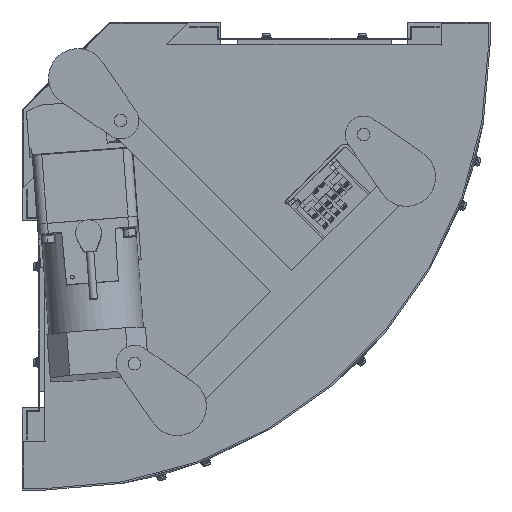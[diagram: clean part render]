
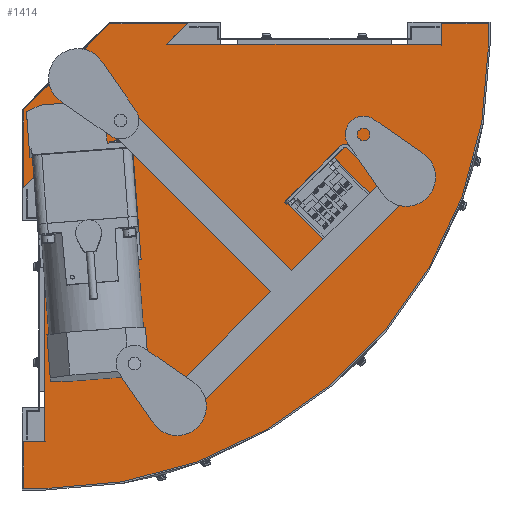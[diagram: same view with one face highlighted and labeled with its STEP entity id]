
A CAD part, front view. The second image highlights one B-rep face of the part: STEP entity #1414.
In plain terms, the highlighted planar face has unit normal (0, -1, 0).
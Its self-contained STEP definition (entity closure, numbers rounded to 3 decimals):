
#1414=ADVANCED_FACE('',(#3601),#3600,.F.);
#3600=PLANE('',#18785);
#3601=FACE_OUTER_BOUND('',#18786,.T.);
#18782=CARTESIAN_POINT('',(-33.4,-145.7,-471.5));
#18783=DIRECTION('',(0.,1.,0.));
#18784=DIRECTION('',(0.,0.,1.));
#18785=AXIS2_PLACEMENT_3D('',#18782,#18783,#18784);
#18786=EDGE_LOOP('',(#28808,#28809,#28810,#28811,#28812,#28813,#28814,#28815,#28816,#28817,#28818,#28819,#28820,#28821,#28822,#28823));
#28808=ORIENTED_EDGE('',*,*,#36398,.F.);
#28809=ORIENTED_EDGE('',*,*,#36502,.F.);
#28810=ORIENTED_EDGE('',*,*,#36489,.T.);
#28811=ORIENTED_EDGE('',*,*,#36504,.T.);
#28812=ORIENTED_EDGE('',*,*,#36505,.T.);
#28813=ORIENTED_EDGE('',*,*,#36506,.T.);
#28814=ORIENTED_EDGE('',*,*,#36493,.T.);
#28815=ORIENTED_EDGE('',*,*,#36500,.F.);
#28816=ORIENTED_EDGE('',*,*,#36498,.F.);
#28817=ORIENTED_EDGE('',*,*,#36507,.T.);
#28818=ORIENTED_EDGE('',*,*,#36508,.T.);
#28819=ORIENTED_EDGE('',*,*,#36509,.T.);
#28820=ORIENTED_EDGE('',*,*,#36510,.T.);
#28821=ORIENTED_EDGE('',*,*,#36511,.T.);
#28822=ORIENTED_EDGE('',*,*,#36512,.T.);
#28823=ORIENTED_EDGE('',*,*,#36513,.T.);
#36398=EDGE_CURVE('',#41002,#40987,#41009,.T.);
#36489=EDGE_CURVE('',#41620,#41613,#41621,.T.);
#36493=EDGE_CURVE('',#41600,#41641,#41648,.T.);
#36498=EDGE_CURVE('',#41675,#41682,#41683,.T.);
#36500=EDGE_CURVE('',#41682,#41641,#41695,.T.);
#36502=EDGE_CURVE('',#41620,#41002,#41707,.T.);
#36504=EDGE_CURVE('',#41613,#41719,#41720,.T.);
#36505=EDGE_CURVE('',#41719,#41726,#41727,.T.);
#36506=EDGE_CURVE('',#41726,#41600,#41733,.T.);
#36507=EDGE_CURVE('',#41675,#41739,#41740,.T.);
#36508=EDGE_CURVE('',#41739,#41746,#41747,.T.);
#36509=EDGE_CURVE('',#41746,#41753,#41754,.T.);
#36510=EDGE_CURVE('',#41753,#41760,#41761,.T.);
#36511=EDGE_CURVE('',#41760,#41767,#41768,.T.);
#36512=EDGE_CURVE('',#41767,#41774,#41775,.T.);
#36513=EDGE_CURVE('',#41774,#40987,#41781,.T.);
#40987=VERTEX_POINT('',#67288);
#41002=VERTEX_POINT('',#67298);
#41009=CIRCLE('',#67305,412.5);
#41600=VERTEX_POINT('',#67668);
#41613=VERTEX_POINT('',#67675);
#41620=VERTEX_POINT('',#67679);
#41621=LINE('',#67680,#67681);
#41641=VERTEX_POINT('',#67691);
#41648=LINE('',#67695,#67696);
#41675=VERTEX_POINT('',#67711);
#41682=VERTEX_POINT('',#67715);
#41683=CIRCLE('',#67719,412.5);
#41695=LINE('',#67723,#67724);
#41707=LINE('',#67729,#67730);
#41719=VERTEX_POINT('',#67735);
#41720=LINE('',#67736,#67737);
#41726=VERTEX_POINT('',#67739);
#41727=LINE('',#67740,#67741);
#41733=LINE('',#67743,#67744);
#41739=VERTEX_POINT('',#67746);
#41740=LINE('',#67747,#67748);
#41746=VERTEX_POINT('',#67750);
#41747=LINE('',#67751,#67752);
#41753=VERTEX_POINT('',#67754);
#41754=LINE('',#67755,#67756);
#41760=VERTEX_POINT('',#67758);
#41761=CIRCLE('',#67762,461.5);
#41767=VERTEX_POINT('',#67763);
#41768=LINE('',#67764,#67765);
#41774=VERTEX_POINT('',#67767);
#41775=LINE('',#67768,#67769);
#41781=LINE('',#67771,#67772);
#67288=CARTESIAN_POINT('',(412.5,-145.7,0.));
#67298=CARTESIAN_POINT('',(412.496,-145.7,1.846));
#67302=CARTESIAN_POINT('',(0.,-145.7,0.));
#67303=DIRECTION('',(0.,1.,0.));
#67304=DIRECTION('',(0.,0.,-1.));
#67305=AXIS2_PLACEMENT_3D('',#67302,#67303,#67304);
#67668=CARTESIAN_POINT('',(-23.4,-145.7,-147.5));
#67675=CARTESIAN_POINT('',(147.5,-145.7,23.4));
#67679=CARTESIAN_POINT('',(125.898,-145.7,1.798));
#67680=CARTESIAN_POINT('',(125.898,-145.7,1.798));
#67681=VECTOR('',#67682,30.55);
#67682=DIRECTION('',(0.707,0.,0.707));
#67691=CARTESIAN_POINT('',(-1.798,-145.7,-125.898));
#67695=CARTESIAN_POINT('',(-23.4,-145.7,-147.5));
#67696=VECTOR('',#67697,30.55);
#67697=DIRECTION('',(0.707,0.,0.707));
#67711=CARTESIAN_POINT('',(0.,-145.7,-412.5));
#67715=CARTESIAN_POINT('',(-1.846,-145.7,-412.496));
#67716=CARTESIAN_POINT('',(0.,-145.7,0.));
#67717=DIRECTION('',(0.,1.,0.));
#67718=DIRECTION('',(0.,0.,-1.));
#67719=AXIS2_PLACEMENT_3D('',#67716,#67717,#67718);
#67723=CARTESIAN_POINT('',(-1.846,-145.7,-412.496));
#67724=VECTOR('',#67725,286.598);
#67725=DIRECTION('',(0.,0.,1.));
#67729=CARTESIAN_POINT('',(125.898,-145.7,1.798));
#67730=VECTOR('',#67731,286.598);
#67731=DIRECTION('',(1.,0.,0.));
#67735=CARTESIAN_POINT('',(66.663,-145.7,23.4));
#67736=CARTESIAN_POINT('',(147.5,-145.7,23.4));
#67737=VECTOR('',#67738,80.837);
#67738=DIRECTION('',(-1.,0.,0.));
#67739=CARTESIAN_POINT('',(-23.4,-145.7,-66.663));
#67740=CARTESIAN_POINT('',(66.663,-145.7,23.4));
#67741=VECTOR('',#67742,127.368);
#67742=DIRECTION('',(-0.707,0.,-0.707));
#67743=CARTESIAN_POINT('',(-23.4,-145.7,-66.663));
#67744=VECTOR('',#67745,80.837);
#67745=DIRECTION('',(0.,0.,-1.));
#67746=CARTESIAN_POINT('',(-23.4,-145.7,-412.5));
#67747=CARTESIAN_POINT('',(0.,-145.7,-412.5));
#67748=VECTOR('',#67749,23.4);
#67749=DIRECTION('',(-1.,0.,0.));
#67750=CARTESIAN_POINT('',(-23.4,-145.7,-461.5));
#67751=CARTESIAN_POINT('',(-23.4,-145.7,-412.5));
#67752=VECTOR('',#67753,49.);
#67753=DIRECTION('',(0.,0.,-1.));
#67754=CARTESIAN_POINT('',(0.,-145.7,-461.5));
#67755=CARTESIAN_POINT('',(-23.4,-145.7,-461.5));
#67756=VECTOR('',#67757,23.4);
#67757=DIRECTION('',(1.,0.,0.));
#67758=CARTESIAN_POINT('',(461.5,-145.7,0.));
#67759=CARTESIAN_POINT('',(0.,-145.7,0.));
#67760=DIRECTION('',(0.,-1.,0.));
#67761=DIRECTION('',(0.,0.,-1.));
#67762=AXIS2_PLACEMENT_3D('',#67759,#67760,#67761);
#67763=CARTESIAN_POINT('',(461.5,-145.7,23.4));
#67764=CARTESIAN_POINT('',(461.5,-145.7,0.));
#67765=VECTOR('',#67766,23.4);
#67766=DIRECTION('',(0.,0.,1.));
#67767=CARTESIAN_POINT('',(412.5,-145.7,23.4));
#67768=CARTESIAN_POINT('',(461.5,-145.7,23.4));
#67769=VECTOR('',#67770,49.);
#67770=DIRECTION('',(-1.,0.,0.));
#67771=CARTESIAN_POINT('',(412.5,-145.7,23.4));
#67772=VECTOR('',#67773,23.4);
#67773=DIRECTION('',(0.,0.,-1.));
